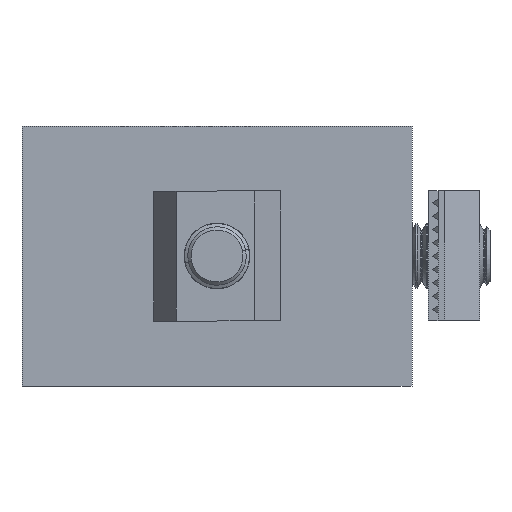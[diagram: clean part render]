
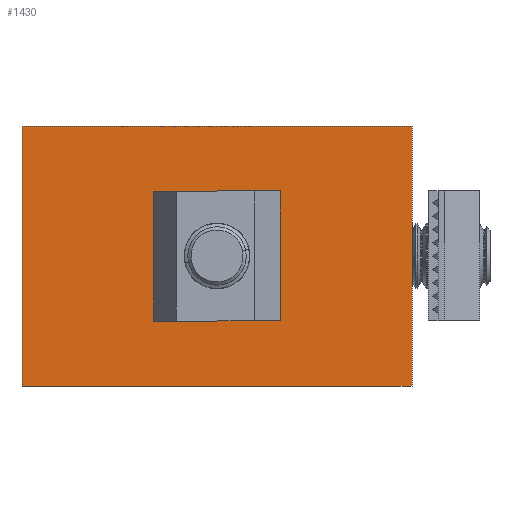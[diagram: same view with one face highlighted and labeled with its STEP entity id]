
A CAD part, front view. The second image highlights one B-rep face of the part: STEP entity #1430.
In plain terms, the highlighted planar face has unit normal (0, -1, 0).
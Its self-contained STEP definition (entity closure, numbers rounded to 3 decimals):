
#361 = CIRCLE ( 'NONE', #1047, 2.5 ) ;
#824 = VECTOR ( 'NONE', #6362, 1000. ) ;
#834 = LINE ( 'NONE', #6356, #824 ) ;
#851 = VECTOR ( 'NONE', #1516, 1000. ) ;
#855 = LINE ( 'NONE', #1515, #851 ) ;
#860 = LINE ( 'NONE', #1535, #865 ) ;
#862 = LINE ( 'NONE', #1561, #878 ) ;
#865 = VECTOR ( 'NONE', #1536, 1000. ) ;
#872 = CIRCLE ( 'NONE', #1172, 2.5 ) ;
#878 = VECTOR ( 'NONE', #1562, 1000. ) ;
#1026 = AXIS2_PLACEMENT_3D ( 'NONE', #5514, #5533, #5532 ) ;
#1047 = AXIS2_PLACEMENT_3D ( 'NONE', #3904, #3890, #3894 ) ;
#1172 = AXIS2_PLACEMENT_3D ( 'NONE', #1537, #1542, #1543 ) ;
#1430 = ADVANCED_FACE ( 'NONE', ( #4162, #4169 ), #5509, .F. ) ;
#1515 = CARTESIAN_POINT ( 'NONE',  ( 0., 0., 20. ) ) ;
#1516 = DIRECTION ( 'NONE',  ( 1., 0., 0. ) ) ;
#1535 = CARTESIAN_POINT ( 'NONE',  ( 0., 0., 0. ) ) ;
#1536 = DIRECTION ( 'NONE',  ( 1., 0., 0. ) ) ;
#1537 = CARTESIAN_POINT ( 'NONE',  ( 15., 0., 10. ) ) ;
#1542 = DIRECTION ( 'NONE',  ( 0., -1., 0. ) ) ;
#1543 = DIRECTION ( 'NONE',  ( 0., 0., -1. ) ) ;
#1561 = CARTESIAN_POINT ( 'NONE',  ( 0., 0., 20. ) ) ;
#1562 = DIRECTION ( 'NONE',  ( 0., 0., -1. ) ) ;
#1819 = CARTESIAN_POINT ( 'NONE',  ( 0., 0., 20. ) ) ;
#1831 = CARTESIAN_POINT ( 'NONE',  ( 15., 0., 7.5 ) ) ;
#1900 = CARTESIAN_POINT ( 'NONE',  ( 0., 0., 0. ) ) ;
#1966 = CARTESIAN_POINT ( 'NONE',  ( 15., 0., 12.5 ) ) ;
#2070 = CARTESIAN_POINT ( 'NONE',  ( 30., 0., 20. ) ) ;
#2108 = CARTESIAN_POINT ( 'NONE',  ( 30., 0., 0. ) ) ;
#2640 = EDGE_CURVE ( 'NONE', #7085, #7007, #361, .T. ) ;
#3890 = DIRECTION ( 'NONE',  ( 0., -1., 0. ) ) ;
#3894 = DIRECTION ( 'NONE',  ( 0., 0., -1. ) ) ;
#3904 = CARTESIAN_POINT ( 'NONE',  ( 15., 0., 10. ) ) ;
#4162 = FACE_BOUND ( 'NONE', #5223, .T. ) ;
#4169 = FACE_OUTER_BOUND ( 'NONE', #6731, .T. ) ;
#4847 = ORIENTED_EDGE ( 'NONE', *, *, #6530, .T. ) ;
#4856 = ORIENTED_EDGE ( 'NONE', *, *, #6501, .F. ) ;
#4859 = ORIENTED_EDGE ( 'NONE', *, *, #6523, .F. ) ;
#4863 = ORIENTED_EDGE ( 'NONE', *, *, #6540, .T. ) ;
#4866 = ORIENTED_EDGE ( 'NONE', *, *, #6533, .F. ) ;
#4870 = ORIENTED_EDGE ( 'NONE', *, *, #2640, .F. ) ;
#5223 = EDGE_LOOP ( 'NONE', ( #4866, #4870 ) ) ;
#5509 = PLANE ( 'NONE',  #1026 ) ;
#5514 = CARTESIAN_POINT ( 'NONE',  ( 0., 0., 20. ) ) ;
#5532 = DIRECTION ( 'NONE',  ( 0., 0., 1. ) ) ;
#5533 = DIRECTION ( 'NONE',  ( 0., 1., 0. ) ) ;
#6356 = CARTESIAN_POINT ( 'NONE',  ( 30., 0., 20. ) ) ;
#6362 = DIRECTION ( 'NONE',  ( 0., 0., -1. ) ) ;
#6501 = EDGE_CURVE ( 'NONE', #7176, #7215, #834, .T. ) ;
#6523 = EDGE_CURVE ( 'NONE', #6993, #7176, #855, .T. ) ;
#6530 = EDGE_CURVE ( 'NONE', #7046, #7215, #860, .T. ) ;
#6533 = EDGE_CURVE ( 'NONE', #7007, #7085, #872, .T. ) ;
#6540 = EDGE_CURVE ( 'NONE', #6993, #7046, #862, .T. ) ;
#6731 = EDGE_LOOP ( 'NONE', ( #4847, #4856, #4859, #4863 ) ) ;
#6993 = VERTEX_POINT ( 'NONE', #1819 ) ;
#7007 = VERTEX_POINT ( 'NONE', #1831 ) ;
#7046 = VERTEX_POINT ( 'NONE', #1900 ) ;
#7085 = VERTEX_POINT ( 'NONE', #1966 ) ;
#7176 = VERTEX_POINT ( 'NONE', #2070 ) ;
#7215 = VERTEX_POINT ( 'NONE', #2108 ) ;
